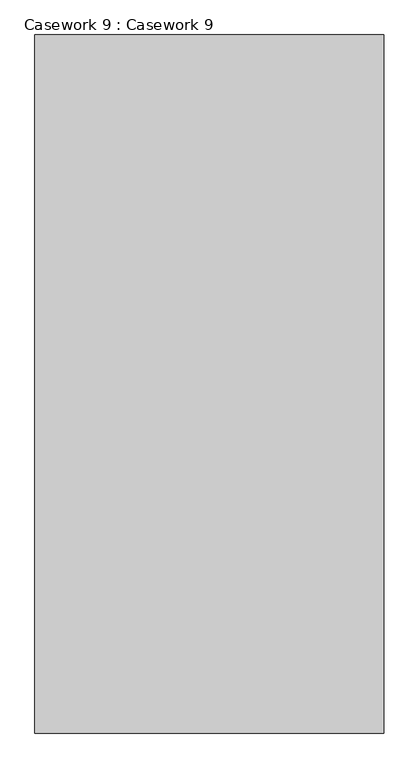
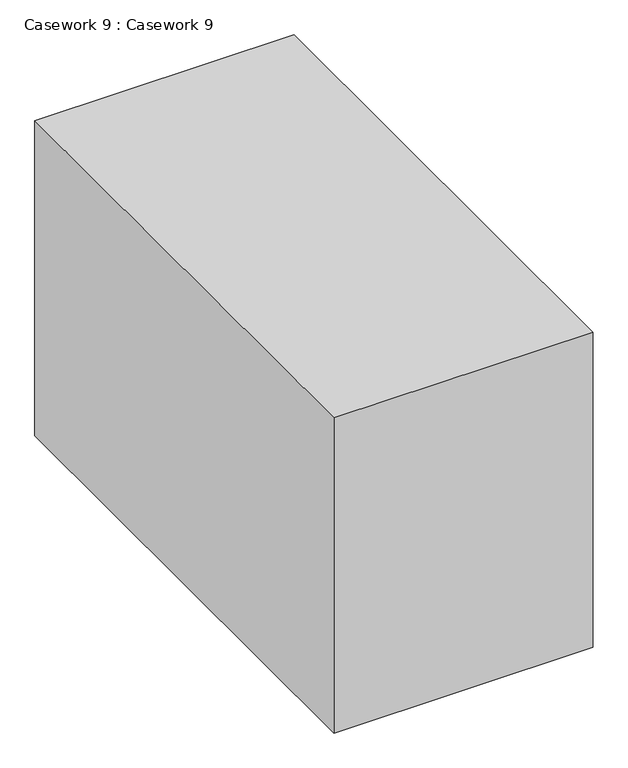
"""IFC4 building model written with IfcOpenShell, lengths in millimetres: furniture geometry, Casework 9 : Casework 9."""

from ifc_helpers import new_model, si_unit, frame, origin, place, context, project, spatial, polyline, outline, extrude, source, transform, mapped, element, save


def casework_9_casework_9_592b6bdc(model_context):
    return source(origin(), model_context, "Body", "SweptSolid", [
        extrude(outline(polyline([(5378.45, 6641.9947939), (6089.65, 6641.9947939), (6089.65, 5219.5947939), (5378.45, 5219.5947939), (5378.45, 6641.9947939)])), frame((0.0, 0.0, 3348.0), z_axis=(0.0, 0.0, 1.0), x_axis=(1.0, 0.0, 0.0)), (0.0, 0.0, 1.0), 914.4),
    ])


if __name__ == "__main__":
    model = new_model("IFC4")
    model_context = context("Model", 3, world=origin())
    ifc_project = project(units=[si_unit("LENGTHUNIT", "METRE", prefix="MILLI")], contexts=[model_context])
    site = spatial("IfcSite", under=ifc_project)
    building = spatial("IfcBuilding", under=site)
    placement = place(None, origin())
    casework_9_casework_9_shape = casework_9_casework_9_592b6bdc(model_context)
    element("IfcFurniture", 1, ObjectType="Casework 9 : Casework 9", at=placement, inside=building, context=model_context, shape_type="MappedRepresentation", body=[
        mapped(casework_9_casework_9_shape, transform((0.0, 0.0, 0.0), x_axis=(1.0, 0.0, 0.0), y_axis=(0.0, 1.0, 0.0), z_axis=(0.0, 0.0, 1.0))),
    ])
    save(model, "model.ifc")
